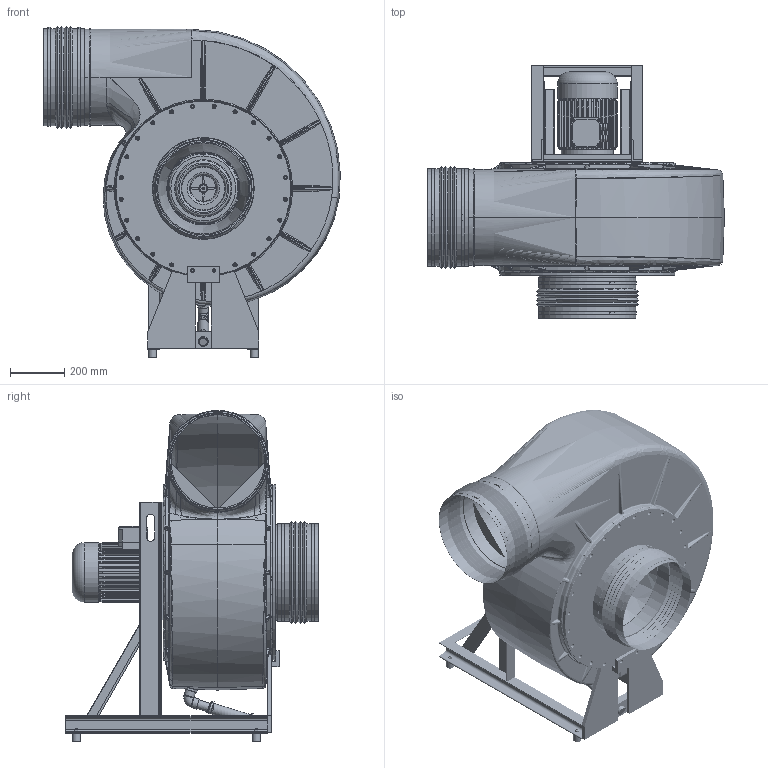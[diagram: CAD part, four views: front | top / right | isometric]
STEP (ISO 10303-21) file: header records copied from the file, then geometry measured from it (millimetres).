
FILE_DESCRIPTION( ( 'Unknown' ), '1' );
FILE_NAME( 'K:/HOME/HLT_CAD/Z/HF/3D/Zusammenstellung/HFR/HFR 15_17/HFR...-15D/DS_1/HFR_355-15D/GR90/HFR_355-15D_DS1_GR_090_112.stp', 'Unknown', ( 'Unknown' ), ( 'Unknown' ), 'PSStep 17.0.49', 'Unknown', ' ' );
FILE_SCHEMA( ( 'AUTOMOTIVE_DESIGN { 1 0 10303 214 1 1 1 1 }' ) );
Length unit declared in the file: millimetre
Products named in the file (37): HFR 355_GR; Gehäuse 355_GR-Abgeschn; Ensat-Buchse-M8; 5003_Man 355; 5003_Manschettenband_Ø355; 5003_4_Schelle_Ø355; 5331_Gestell_HFR_355_15_D_DS1; C-Channel 65x42-oa1; C-Channel 65x42-oa2; Angle 40x40x4-oa3; Angle 40x40x4-oa4; Angle 40x40x4-oa5; Angle 60x30x5-oa6; Angle 80x40x6-oa7; Angle 80x40x6-oa8; Angle 25x4-oa9; 5331_Gehäuseplatte; 5157_GHD_355; GD_FL 355; 5157_Rohr_355; 355; 5157_Rohr_280; 5159_Kondensatablauf_355-500; Stopfen_G1-oa0; Rohr_Ø32; Verschlusskappe_Ø31,8; Schelle; 721100108-Winkel_90°-DN25_d=32; Schlauch_Ø32; Assem1; 5200_Stützplatte_HFR355_90°-180°-360°_DS1; Schwidä_30x30; 6611_Motorring_Bg100+112; 6kant_M8; 5200_Befestigungsklammer_HFR355; B5_112a_2HIHI
Assembly tree (102 placements, depth 3):
  Assem1
    5200_Stützplatte_HFR355_90°-180°-360°_DS1
    5200_Stützplatte_HFR355_90°-180°-360°_DS1
    Schwidä_30x30  x4
    6611_Motorring_Bg100+112
    6kant_M8  x4
    5200_Befestigungsklammer_HFR355
    B5_112a_2HIHI
    HFR 355_GR
      Gehäuse 355_GR-Abgeschn
      Ensat-Buchse-M8  x56
    5157_GHD_355
      GD_FL 355
      5157_Rohr_355
      355  x2
      5157_Rohr_280
    5159_Kondensatablauf_355-500
      Stopfen_G1-oa0
      Rohr_Ø32  x2
      Verschlusskappe_Ø31,8
      Schelle  x2
      721100108-Winkel_90°-DN25_d=32
      Schlauch_Ø32
    5003_Man 355  x2
      5003_Manschettenband_Ø355
      5003_4_Schelle_Ø355
    5331_Gestell_HFR_355_15_D_DS1
      C-Channel 65x42-oa1
      C-Channel 65x42-oa2
      Angle 40x40x4-oa3
      Angle 40x40x4-oa4
      Angle 40x40x4-oa5
      Angle 60x30x5-oa6
      Angle 80x40x6-oa7
      Angle 80x40x6-oa8
      Angle 25x4-oa9
      5331_Gehäuseplatte
Bounding box: 1096.37 x 934 x 1223.83 mm (x, y, z)
Volume: 22652497 mm3; surface area: 9074815.7 mm2
Topology: 98 solids, 99 shells, 3286 faces, 6898 edges, 4315 vertices
Faces by surface type: plane 1420, cylinder 1101, bspline 336, torus 208, cone 145, sphere 48, offset 22, revolution 6
Full cylindrical faces by diameter (mm): 6.647 x64, 8 x8, 8.376 x1, 8.5 x4, 9 x2, 10 x4, 10.5 x4, 11 x4, 12 x224, 13 x230, 14 x18, 14.5 x4, 15 x24, 16 x6, 17 x48, 22 x1, 23 x1, 24 x4, 25.6 x2, 28 x1, 28.4 x2, 30 x4, 31.8 x1, 32 x5, 33.6 x1, 34.8 x1, 35.244 x1, 36 x1, 38.2 x2, 40 x3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
Entity records: 164611 total; most frequent: CARTESIAN_POINT 88942, DIRECTION 11364, ORIENTED_EDGE 10068, EDGE_CURVE 5034, AXIS2_PLACEMENT_3D 4769, EDGE_LOOP 3721, VERTEX_POINT 3421, FACE_OUTER_BOUND 3165
